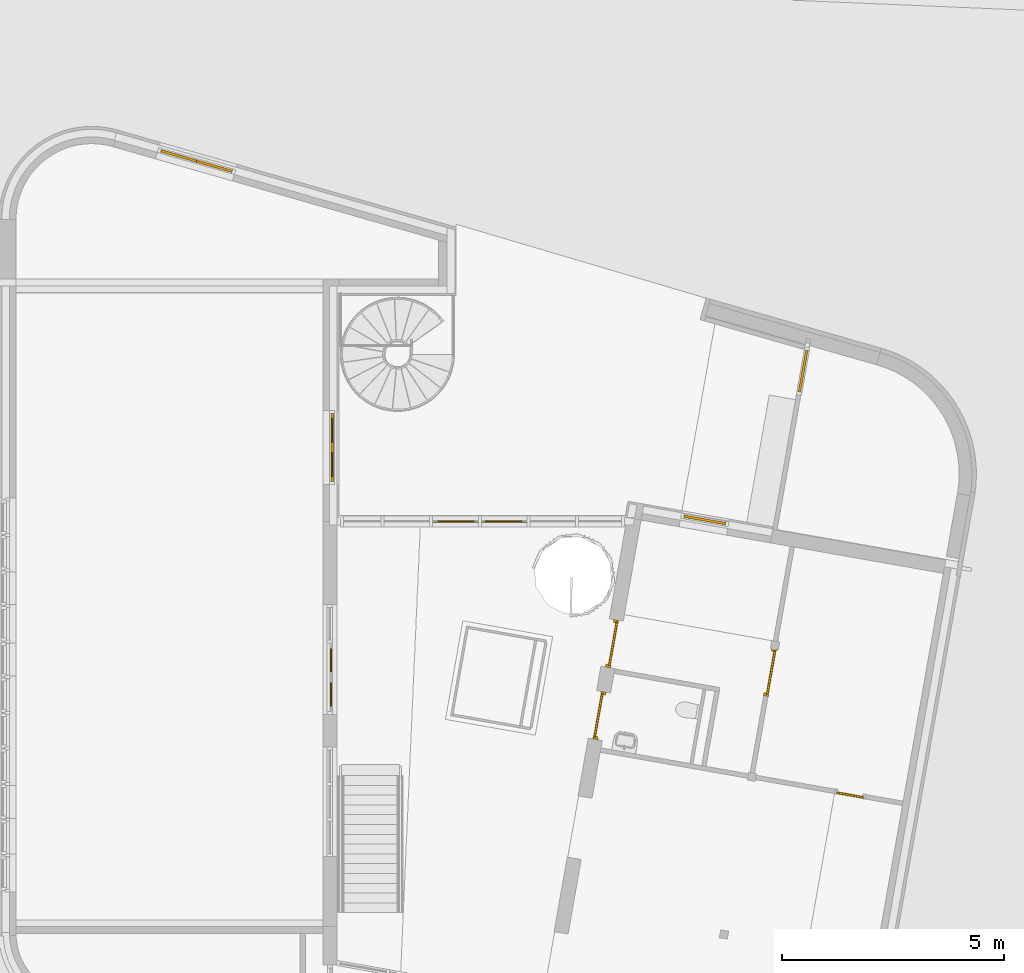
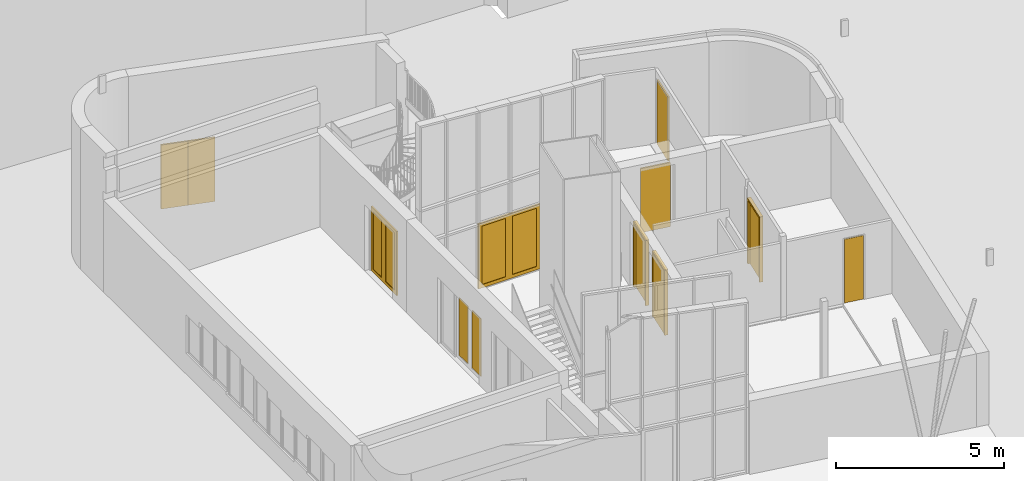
# One storey, part 17 of 21: 13 doors, 6 windows, 5 elements without a shape of their own.
"""IFC2X3 building model written with IfcOpenShell, lengths in millimetres."""

from ifc_helpers import new_model, entity, si_unit, converted_unit, derived_unit, direction, frame, frame_2d, origin, origin_2d_with_axis, place, context, subcontext, project, spatial, polyline, rectangle, outline, extrude, faceted_brep, source, transform, mapped, material, material_list, type_object, type_shapes, element, aggregate, save


model = new_model("IFC2X3")

# Units and contexts
model_context = context("Model", 3, precision=0.01, world=origin(), true_north=direction((6.12303176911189e-17, 1.0)))
body_context = subcontext(model_context, "Body", "Model", "MODEL_VIEW")
ifc_project = project(units=[si_unit("LENGTHUNIT", "METRE", prefix="MILLI"), si_unit("AREAUNIT", "SQUARE_METRE"), si_unit("VOLUMEUNIT", "CUBIC_METRE"), converted_unit("PLANEANGLEUNIT", "DEGREE", entity("IfcRatioMeasure", 0.0174532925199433), si_unit("PLANEANGLEUNIT", "RADIAN"), dimensions=[0, 0, 0, 0, 0, 0, 0]), si_unit("MASSUNIT", "GRAM", prefix="KILO"), derived_unit("MASSDENSITYUNIT", [(si_unit("MASSUNIT", "GRAM", prefix="KILO"), 1), (si_unit("LENGTHUNIT", "METRE"), -3)]), derived_unit("MOMENTOFINERTIAUNIT", [(si_unit("LENGTHUNIT", "METRE"), 4)]), si_unit("TIMEUNIT", "SECOND"), si_unit("FREQUENCYUNIT", "HERTZ"), si_unit("THERMODYNAMICTEMPERATUREUNIT", "DEGREE_CELSIUS"), derived_unit("THERMALTRANSMITTANCEUNIT", [(si_unit("MASSUNIT", "GRAM", prefix="KILO"), 1), (si_unit("THERMODYNAMICTEMPERATUREUNIT", "KELVIN"), -1), (si_unit("TIMEUNIT", "SECOND"), -3)]), derived_unit("VOLUMETRICFLOWRATEUNIT", [(si_unit("LENGTHUNIT", "METRE"), 3), (si_unit("TIMEUNIT", "SECOND"), -1)]), si_unit("ELECTRICCURRENTUNIT", "AMPERE"), si_unit("ELECTRICVOLTAGEUNIT", "VOLT"), si_unit("POWERUNIT", "WATT"), si_unit("FORCEUNIT", "NEWTON", prefix="KILO"), si_unit("ILLUMINANCEUNIT", "LUX"), si_unit("LUMINOUSFLUXUNIT", "LUMEN"), si_unit("LUMINOUSINTENSITYUNIT", "CANDELA"), derived_unit("USERDEFINED", [(si_unit("MASSUNIT", "GRAM", prefix="KILO"), -1), (si_unit("LENGTHUNIT", "METRE"), -2), (si_unit("TIMEUNIT", "SECOND"), 3), (si_unit("LUMINOUSFLUXUNIT", "LUMEN"), 1)]), derived_unit("LINEARVELOCITYUNIT", [(si_unit("LENGTHUNIT", "METRE"), 1), (si_unit("TIMEUNIT", "SECOND"), -1)]), si_unit("PRESSUREUNIT", "PASCAL"), derived_unit("USERDEFINED", [(si_unit("LENGTHUNIT", "METRE"), -2), (si_unit("MASSUNIT", "GRAM", prefix="KILO"), 1), (si_unit("TIMEUNIT", "SECOND"), -2)]), derived_unit("LINEARFORCEUNIT", [(si_unit("MASSUNIT", "GRAM", prefix="KILO"), 1), (si_unit("LENGTHUNIT", "METRE"), 1), (si_unit("TIMEUNIT", "SECOND"), -2), (si_unit("LENGTHUNIT", "METRE"), -1)]), derived_unit("PLANARFORCEUNIT", [(si_unit("MASSUNIT", "GRAM", prefix="KILO"), 1), (si_unit("LENGTHUNIT", "METRE"), 1), (si_unit("TIMEUNIT", "SECOND"), -2), (si_unit("LENGTHUNIT", "METRE"), -2)])], contexts=[model_context])

# Site, building, storey
site_placement = place(None, origin())
site = spatial("IfcSite", under=ifc_project, at=site_placement, Name="<Kadaster Gemeente>;<Kadaster nummer>;<Kadaster sectie>", CompositionType="ELEMENT")
building_placement = place(site_placement, origin())
building = spatial("IfcBuilding", under=site, at=building_placement, Name="JRCZ Middelburg", CompositionType="ELEMENT")
storey_placement = place(building_placement, origin())
storey = spatial("IfcBuildingStorey", under=building, at=storey_placement, Name="00 begane grond", CompositionType="ELEMENT", Elevation=0.0)

# Curtain wall, door
curtain_wall_type_1 = type_object("IfcCurtainWallType", Name="Curtain Wall:NLRS_31_CW_Ontwerpkozijn 067x114", PredefinedType="NOTDEFINED")
curtain_wall_1_placement = place(storey_placement, origin())
curtain_wall_1 = element("IfcCurtainWall", 1, at=curtain_wall_1_placement, inside=storey, type_object=curtain_wall_type_1, Name="Curtain Wall:NLRS_31_CW_Ontwerpkozijn 067x114", ObjectType="Curtain Wall:NLRS_31_CW_Ontwerpkozijn 067x114")
ifc_material_1 = material(Name="RBM_a_kozijn")
ifc_material_list_1 = material_list([ifc_material_1, ifc_material_1, ifc_material_1, ifc_material_1])
ifc_material_list_2 = material_list([ifc_material_1, ifc_material_1])
door_style_1 = type_object("IfcDoorStyle", Name="31_DO_stolpdeur_1:0std", ConstructionType="NOTDEFINED", OperationType="NOTDEFINED", ParameterTakesPrecedence=False, Sizeable=False, material=ifc_material_list_2)
shared_shape_1 = source(origin(), body_context, "Body", "SweptSolid", [
    extrude(outline(polyline([(-383.249999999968, -1166.5), (383.249999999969, -1166.5), (383.249999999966, 1166.5), (-383.249999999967, 1166.5), (-383.249999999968, -1166.5)]), holes=[polyline([(-263.249999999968, -1046.5), (-263.249999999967, 1046.49999999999), (263.250000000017, 1046.49999999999), (263.250000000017, -1046.5), (-263.249999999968, -1046.5)])]), frame((383.249999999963, 57.0, 1166.5), z_axis=(0.0, 1.0, 0.0), x_axis=(1.0, 0.0, 0.0)), (0.0, 0.0, 1.0), 27.0),
    extrude(outline(polyline([(-383.249999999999, -1166.5), (383.249999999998, -1166.5), (383.249999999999, 1166.5), (-383.249999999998, 1166.5), (-383.249999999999, -1166.5)]), holes=[polyline([(-263.249999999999, -1046.49999999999), (-263.249999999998, 1046.49999999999), (263.249999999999, 1046.5), (263.249999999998, -1046.49999999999), (-263.249999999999, -1046.49999999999)])]), frame((-383.249999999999, 57.0, 1166.5), z_axis=(0.0, 1.0, 0.0), x_axis=(1.0, 0.0, 0.0)), (0.0, 0.0, 1.0), 27.0),
    extrude(outline(polyline([(-383.249999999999, -1166.5), (383.249999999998, -1166.5), (383.249999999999, 1166.5), (-383.249999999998, 1166.5), (-383.249999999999, -1166.5)]), holes=[polyline([(-263.249999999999, -1046.49999999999), (-263.249999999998, 1046.49999999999), (263.249999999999, 1046.49999999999), (263.249999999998, -1046.49999999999), (-263.249999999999, -1046.49999999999)])]), frame((-383.249999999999, 30.0, 1166.5), z_axis=(0.0, 1.0, 0.0), x_axis=(1.0, 0.0, 0.0)), (0.0, 0.0, 1.0), 27.0000000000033),
    extrude(outline(polyline([(-383.249999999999, -1166.5), (383.249999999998, -1166.5), (383.249999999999, 1166.5), (-383.249999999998, 1166.5), (-383.249999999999, -1166.5)]), holes=[polyline([(-263.249999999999, -1046.49999999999), (-263.249999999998, 1046.49999999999), (263.249999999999, 1046.49999999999), (263.249999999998, -1046.49999999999), (-263.249999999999, -1046.49999999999)])]), frame((383.249999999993, 30.0, 1166.5), z_axis=(0.0, 1.0, 0.0), x_axis=(1.0, 0.0, 0.0)), (0.0, 0.0, 1.0), 26.9999999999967),
])
type_shapes(door_style_1, [shared_shape_1])
door_1_placement = place(curtain_wall_1_placement, frame((17200.0, 20763.5106983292, 0.0), z_axis=(0.0, 0.0, 1.0), x_axis=(0.0, -1.0, 0.0)))
door_1 = element("IfcDoor", 2, at=door_1_placement, type_object=door_style_1, material=ifc_material_list_1, Name="31_DO_stolpdeur_1:0std", ObjectType="31_DO_stolpdeur_1:0std", OverallHeight=2333.00000000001, OverallWidth=1533.0, context=body_context, shape_type="MappedRepresentation", body=[
    mapped(shared_shape_1, transform((0.0, 0.0, 0.0), scale=1.0)),
])
aggregate(curtain_wall_1, [door_1])

# Windows
ifc_material_2 = material(Name="o1_glas")
window_style_1 = type_object("IfcWindowStyle", Name="WI_subvak:glas 2", ConstructionType="NOTDEFINED", OperationType="NOTDEFINED", ParameterTakesPrecedence=False, Sizeable=False, material=ifc_material_2)
shared_shape_2 = source(origin(), body_context, "Body", "SweptSolid", [
    extrude(rectangle(XDim=24.0000000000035, YDim=526.500000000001, at=origin_2d_with_axis()), frame((0.0, 0.0, 0.0), z_axis=(0.0, 0.0, 1.0), x_axis=(0.0, -1.0, 0.0)), (0.0, 0.0, 1.0), 2092.99999999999),
])
type_shapes(window_style_1, [shared_shape_2])
for number, where, z_axis, x_axis, name in (
    (3, (17257.0, 20380.2606983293, 120.0), (0.0, 0.0, 1.0), (0.0, -1.0, 0.0), "WI_subvak:glas 2"),
    (4, (17257.0, 21146.7606983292, 120.0), (0.0, 0.0, 1.0), (0.0, -1.0, 0.0), "WI_subvak:glas 2"),
):
    element("IfcWindow", number, at=place(storey_placement, frame(where, z_axis=z_axis, x_axis=x_axis)), inside=storey, type_object=window_style_1, material=ifc_material_2, Name=name, ObjectType="WI_subvak:glas 2", OverallHeight=2172.99999999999, OverallWidth=526.500000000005, context=body_context, shape_type="MappedRepresentation", body=[
        mapped(shared_shape_2, transform((0.0, 0.0, 0.0), scale=1.0)),
    ])
window_style_2 = type_object("IfcWindowStyle", Name="WI_subvak:glas 2", ConstructionType="NOTDEFINED", OperationType="NOTDEFINED", ParameterTakesPrecedence=False, Sizeable=False, material=ifc_material_2)
shared_shape_3 = source(origin(), body_context, "Body", "SweptSolid", [
    extrude(rectangle(XDim=526.500000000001, YDim=24.0000000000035, at=origin_2d_with_axis()), origin(), (0.0, 0.0, 1.0), 2092.99999999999),
])
type_shapes(window_style_2, [shared_shape_3])
for number, where, z_axis, x_axis, name in (
    (5, (17230.0, 15983.25, 120.0), (0.0, 0.0, 1.0), (0.0, 1.0, 0.0), "WI_subvak:glas 2"),
    (6, (17230.0, 15216.7499996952, 120.0), (0.0, 0.0, 1.0), (0.0, 1.0, 0.0), "WI_subvak:glas 2"),
):
    element("IfcWindow", number, at=place(storey_placement, frame(where, z_axis=z_axis, x_axis=x_axis)), inside=storey, type_object=window_style_2, material=ifc_material_2, Name=name, ObjectType="WI_subvak:glas 2", OverallHeight=2172.99999999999, OverallWidth=526.500000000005, context=body_context, shape_type="MappedRepresentation", body=[
        mapped(shared_shape_3, transform((0.0, 0.0, 0.0), scale=1.0)),
    ])

# Doors
ifc_material_3 = material(Name="<Unnamed>")
ifc_material_list_3 = material_list([ifc_material_3, ifc_material_3, ifc_material_3])
ifc_material_list_4 = material_list([ifc_material_3, ifc_material_3])
door_style_2 = type_object("IfcDoorStyle", Name="NLRS_32_DO_UN_samenstelling binnenkozijn hout-SH_generiek_ISR:enkele deur_gen", ConstructionType="USERDEFINED", OperationType="NOTDEFINED", ParameterTakesPrecedence=False, Sizeable=False, material=ifc_material_list_4)
shared_shape_4 = source(origin(), body_context, "Body", "Brep", [
    faceted_brep([(492.0, 0.0, 0.0), (492.0, 54.0, 0.0), (475.0, 54.0, 0.0), (475.0, 114.0, 0.0), (542.0, 114.0, 0.0), (542.0, 0.0, 0.0), (492.0, 0.0, 2327.0), (492.0, 54.0, 2327.0), (492.0, 54.0, 2310.0), (475.0, 54.0, 2310.0), (475.0, 114.0, 2310.0), (542.0, 114.0, 2310.0), (542.0, 54.0, 2310.0), (542.0, 54.0, 2327.0), (542.0, 0.0, 2327.0)], [[[0, 1, 2, 3, 4, 5]], [[6, 7, 8, 1, 0]], [[2, 1, 8, 9]], [[3, 2, 9, 10]], [[4, 3, 10, 11]], [[5, 4, 11, 12, 13, 14]], [[14, 6, 0, 5]], [[6, 14, 13, 7]], [[8, 12, 11, 10, 9]], [[12, 8, 7, 13]]]),
    faceted_brep([(-542.0, 0.0, 2327.0), (-542.0, 0.0, 2377.0), (-542.0, 114.0, 2377.0), (-542.0, 114.0, 2310.0), (-542.0, 54.0, 2310.0), (-542.0, 54.0, 2327.0), (542.0, 0.0, 2327.0), (542.0, 54.0, 2327.0), (542.0, 54.0, 2310.0), (542.0, 114.0, 2310.0), (542.0, 114.0, 2377.0), (542.0, 0.0, 2377.0)], [[[0, 1, 2, 3, 4, 5]], [[6, 7, 8, 9, 10, 11]], [[5, 7, 6, 0]], [[4, 8, 7, 5]], [[3, 9, 8, 4]], [[2, 10, 9, 3]], [[1, 11, 10, 2]], [[0, 6, 11, 1]]]),
    faceted_brep([(-492.0, 0.0, 0.0), (-542.0, 0.0, 0.0), (-542.0, 114.0, 0.0), (-475.0, 114.0, 0.0), (-475.0, 54.0, 0.0), (-492.0, 54.0, 0.0), (-492.0, 0.0, 2327.0), (-492.0, 54.0, 2310.0), (-492.0, 54.0, 2327.0), (-475.0, 54.0, 2310.0), (-475.0, 114.0, 2310.0), (-542.0, 114.0, 2310.0), (-542.0, 0.0, 2327.0), (-542.0, 54.0, 2327.0), (-542.0, 54.0, 2310.0)], [[[0, 1, 2, 3, 4, 5]], [[6, 0, 5, 7, 8]], [[4, 9, 7, 5]], [[3, 10, 9, 4]], [[2, 11, 10, 3]], [[1, 12, 13, 14, 11, 2]], [[12, 1, 0, 6]], [[6, 8, 13, 12]], [[7, 9, 10, 11, 14]], [[14, 13, 8, 7]]]),
])
type_shapes(door_style_2, [shared_shape_4])
door_2_placement = place(storey_placement, frame((23605.4826461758, 16346.1458893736, 0.0), z_axis=(0.0, 0.0, 1.0), x_axis=(0.17364817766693, 0.984807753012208, 0.0)))
element("IfcDoor", 7, at=door_2_placement, inside=storey, type_object=door_style_2, material=ifc_material_list_3, Name="NLRS_32_DO_UN_samenstelling binnenkozijn hout-SH_generiek_ISR:enkele deur_gen", ObjectType="NLRS_32_DO_UN_samenstelling binnenkozijn hout-SH_generiek_ISR:enkele deur_gen", OverallHeight=2377.00000000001, OverallWidth=1084.0, context=body_context, shape_type="MappedRepresentation", body=[
    mapped(shared_shape_4, transform((0.0, 0.0, 0.0), scale=1.0)),
])
ifc_material_list_5 = material_list([ifc_material_3, ifc_material_3, ifc_material_3])
door_3_placement = place(storey_placement, frame((23208.0842545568, 14748.8874509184, 0.0), z_axis=(0.0, 0.0, 1.0), x_axis=(-0.17364817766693, -0.984807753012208, 0.0)))
element("IfcDoor", 8, at=door_3_placement, inside=storey, type_object=door_style_2, material=ifc_material_list_5, Name="NLRS_32_DO_UN_samenstelling binnenkozijn hout-SH_generiek_ISR:enkele deur_gen", ObjectType="NLRS_32_DO_UN_samenstelling binnenkozijn hout-SH_generiek_ISR:enkele deur_gen", OverallHeight=2377.00000000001, OverallWidth=1084.0, context=body_context, shape_type="MappedRepresentation", body=[
    mapped(shared_shape_4, transform((0.0, 0.0, 0.0), scale=1.0)),
])
ifc_material_list_6 = material_list([ifc_material_3, ifc_material_3, ifc_material_3])
door_4_placement = place(storey_placement, frame((27156.9480096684, 15702.6644720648, 0.0), z_axis=(0.0, 0.0, 1.0), x_axis=(0.173648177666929, 0.984807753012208, 0.0)))
element("IfcDoor", 9, at=door_4_placement, inside=storey, type_object=door_style_2, material=ifc_material_list_6, Name="NLRS_32_DO_UN_samenstelling binnenkozijn hout-SH_generiek_ISR:enkele deur_gen", ObjectType="NLRS_32_DO_UN_samenstelling binnenkozijn hout-SH_generiek_ISR:enkele deur_gen", OverallHeight=2377.00000000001, OverallWidth=1084.0, context=body_context, shape_type="MappedRepresentation", body=[
    mapped(shared_shape_4, transform((0.0, 0.0, 0.0), scale=1.0)),
])
ifc_material_list_7 = material_list([ifc_material_3, ifc_material_3])
door_style_3 = type_object("IfcDoorStyle", Name="NLRS_32_DO_ISR_onderdeel deur-SH_generiek_ISR:dichte deur_gen", ConstructionType="USERDEFINED", OperationType="SINGLE_SWING_RIGHT", ParameterTakesPrecedence=False, Sizeable=False, material=ifc_material_list_7)
shared_shape_5 = source(origin(), body_context, "Body", "SweptSolid", [
    extrude(rectangle(XDim=979.999999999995, YDim=40.0, at=origin_2d_with_axis()), frame((0.0, 20.0, 0.0), z_axis=(0.0, 0.0, 1.0), x_axis=(-1.0, 0.0, 0.0)), (0.0, 0.0, 1.0), 2315.0),
])
type_shapes(door_style_3, [shared_shape_5])
for number, where, z_axis, x_axis in (
    (10, (23591.6953376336, 16348.5769638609, 10.0), (0.0, 0.0, 1.0), (0.17364817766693, 0.984807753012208, 0.0)),
    (11, (23221.871563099, 14746.456376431, 10.0), (0.0, 0.0, 1.0), (-0.17364817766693, -0.984807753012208, 0.0)),
    (12, (27143.1607011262, 15705.0955465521, 10.0), (0.0, 0.0, 1.0), (0.173648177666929, 0.984807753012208, 0.0)),
):
    element("IfcDoor", number, at=place(storey_placement, frame(where, z_axis=z_axis, x_axis=x_axis)), inside=storey, type_object=door_style_3, material=ifc_material_3, Name="NLRS_32_DO_ISR_onderdeel deur-SH_generiek_ISR:dichte deur_gen", ObjectType="NLRS_32_DO_ISR_onderdeel deur-SH_generiek_ISR:dichte deur_gen", OverallHeight=2315.0, OverallWidth=980.000000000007, context=body_context, shape_type="MappedRepresentation", body=[
        mapped(shared_shape_5, transform((0.0, 0.0, 0.0), scale=1.0)),
    ])

# Curtain wall, doors
curtain_wall_2_placement = place(storey_placement, origin())
curtain_wall_2 = element("IfcCurtainWall", 13, at=curtain_wall_2_placement, inside=storey, type_object=curtain_wall_type_1, Name="Curtain Wall:NLRS_31_CW_Ontwerpkozijn 067x114", ObjectType="Curtain Wall:NLRS_31_CW_Ontwerpkozijn 067x114")
ifc_material_4 = material(Name="RBM_a_deur_paneel")
ifc_material_list_8 = material_list([ifc_material_4, ifc_material_4])
ifc_material_list_9 = material_list([ifc_material_4, ifc_material_4])
door_style_4 = type_object("IfcDoorStyle", Name="31_DO_deur_0:deur", ConstructionType="NOTDEFINED", OperationType="NOTDEFINED", ParameterTakesPrecedence=False, Sizeable=False, material=ifc_material_list_9)
shared_shape_6 = source(origin(), body_context, "Body", "SweptSolid", [
    extrude(rectangle(XDim=27.0, YDim=833.000000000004, at=frame_2d((8.88178419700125e-15, 0.0), x_axis=(1.0, 0.0))), frame((0.0, 70.4999999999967, 0.0), z_axis=(0.0, 0.0, 1.0), x_axis=(0.0, 1.0, 0.0)), (0.0, 0.0, 1.0), 2333.00000000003),
    extrude(rectangle(XDim=26.9999999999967, YDim=833.000000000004, at=origin_2d_with_axis()), frame((0.0, 43.4999999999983, 0.0), z_axis=(0.0, 0.0, 1.0), x_axis=(0.0, 1.0, 0.0)), (0.0, 0.0, 1.0), 2333.00000000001),
])
type_shapes(door_style_4, [shared_shape_6])
door_5_placement = place(curtain_wall_2_placement, frame((13791.5708589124, 27264.9308363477, 0.0), z_axis=(0.0, 0.0, 1.0), x_axis=(0.961261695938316, -0.27563735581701, 0.0)))
door_5 = element("IfcDoor", 14, at=door_5_placement, type_object=door_style_4, material=ifc_material_list_8, Name="31_DO_deur_0:deur", ObjectType="31_DO_deur_0:deur", OverallHeight=2333.00000000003, OverallWidth=833.000000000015, context=body_context, shape_type="MappedRepresentation", body=[
    mapped(shared_shape_6, transform((0.0, 0.0, 0.0), scale=1.0)),
])
ifc_material_list_10 = material_list([ifc_material_4, ifc_material_4])
ifc_material_list_11 = material_list([ifc_material_4, ifc_material_4])
door_style_5 = type_object("IfcDoorStyle", Name="31_DO_deur_0:deur", ConstructionType="NOTDEFINED", OperationType="NOTDEFINED", ParameterTakesPrecedence=False, Sizeable=False, material=ifc_material_list_11)
shared_shape_7 = source(origin(), body_context, "Body", "SweptSolid", [
    extrude(rectangle(XDim=27.0, YDim=833.00000000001, at=frame_2d((8.88178419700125e-15, 0.0), x_axis=(1.0, 0.0))), frame((0.0, 70.4999999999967, 0.0), z_axis=(0.0, 0.0, 1.0), x_axis=(0.0, 1.0, 0.0)), (0.0, 0.0, 1.0), 2333.00000000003),
    extrude(rectangle(XDim=26.9999999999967, YDim=833.00000000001, at=origin_2d_with_axis()), frame((0.0, 43.4999999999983, 0.0), z_axis=(0.0, 0.0, 1.0), x_axis=(0.0, 1.0, 0.0)), (0.0, 0.0, 1.0), 2333.00000000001),
])
type_shapes(door_style_5, [shared_shape_7])
door_6_placement = place(curtain_wall_2_placement, frame((14592.301851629, 27035.3249189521, 0.0), z_axis=(0.0, 0.0, 1.0), x_axis=(0.961261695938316, -0.27563735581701, 0.0)))
door_6 = element("IfcDoor", 15, at=door_6_placement, type_object=door_style_5, material=ifc_material_list_10, Name="31_DO_deur_0:deur", ObjectType="31_DO_deur_0:deur", OverallHeight=2333.00000000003, OverallWidth=833.000000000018, context=body_context, shape_type="MappedRepresentation", body=[
    mapped(shared_shape_7, transform((0.0, 0.0, 0.0), scale=1.0)),
])
aggregate(curtain_wall_2, [door_5, door_6])

# Curtain wall, door
curtain_wall_type_2 = type_object("IfcCurtainWallType", Name="Curtain Wall:Vliesgevel C", PredefinedType="NOTDEFINED")
curtain_wall_3_placement = place(storey_placement, origin())
curtain_wall_3 = element("IfcCurtainWall", 16, at=curtain_wall_3_placement, inside=storey, type_object=curtain_wall_type_2, Name="Curtain Wall:Vliesgevel C", ObjectType="Curtain Wall:Vliesgevel C")
ifc_material_5 = material(Name="RBM_a_kozijn licht")
ifc_material_list_12 = material_list([ifc_material_5, ifc_material_5, ifc_material_5, ifc_material_5])
ifc_material_list_13 = material_list([ifc_material_5, ifc_material_5])
door_style_6 = type_object("IfcDoorStyle", Name="31_DO_stolpdeur_1:0std", ConstructionType="NOTDEFINED", OperationType="NOTDEFINED", ParameterTakesPrecedence=False, Sizeable=False, material=ifc_material_list_13)
shared_shape_8 = source(origin(), body_context, "Body", "SweptSolid", [
    extrude(outline(polyline([(-530.613549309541, -1183.25), (530.613549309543, -1183.25), (530.613549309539, 1183.25), (-530.613549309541, 1183.25), (-530.613549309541, -1183.25)]), holes=[polyline([(-410.613549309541, -1063.25), (-410.61354930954, 1063.24999999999), (410.613549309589, 1063.24999999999), (410.61354930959, -1063.25), (-410.613549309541, -1063.25)])]), frame((530.613549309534, 57.0, 1183.25), z_axis=(0.0, 1.0, 0.0), x_axis=(1.0, 0.0, 0.0)), (0.0, 0.0, 1.0), 27.0),
    extrude(outline(polyline([(-530.613549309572, -1183.25), (530.613549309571, -1183.25), (530.613549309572, 1183.25), (-530.613549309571, 1183.25), (-530.613549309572, -1183.25)]), holes=[polyline([(-410.613549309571, -1063.24999999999), (-410.613549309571, 1063.24999999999), (410.613549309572, 1063.25), (410.613549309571, -1063.24999999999), (-410.613549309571, -1063.24999999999)])]), frame((-530.61354930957, 57.0, 1183.25), z_axis=(0.0, 1.0, 0.0), x_axis=(1.0, 0.0, 0.0)), (0.0, 0.0, 1.0), 27.0),
    extrude(outline(polyline([(-530.613549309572, -1183.25), (530.613549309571, -1183.25), (530.613549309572, 1183.25), (-530.613549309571, 1183.25), (-530.613549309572, -1183.25)]), holes=[polyline([(-410.613549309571, -1063.24999999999), (-410.613549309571, 1063.24999999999), (410.613549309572, 1063.24999999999), (410.613549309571, -1063.24999999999), (-410.613549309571, -1063.24999999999)])]), frame((-530.61354930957, 30.0, 1183.25), z_axis=(0.0, 1.0, 0.0), x_axis=(1.0, 0.0, 0.0)), (0.0, 0.0, 1.0), 27.0000000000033),
    extrude(outline(polyline([(-530.613549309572, -1183.25), (530.613549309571, -1183.25), (530.613549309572, 1183.25), (-530.613549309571, 1183.25), (-530.613549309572, -1183.25)]), holes=[polyline([(-410.613549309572, -1063.24999999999), (-410.613549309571, 1063.24999999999), (410.613549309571, 1063.24999999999), (410.613549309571, -1063.24999999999), (-410.613549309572, -1063.24999999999)])]), frame((530.613549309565, 30.0, 1183.25), z_axis=(0.0, 1.0, 0.0), x_axis=(1.0, 0.0, 0.0)), (0.0, 0.0, 1.0), 26.9999999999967),
])
type_shapes(door_style_6, [shared_shape_8])
door_7_placement = place(curtain_wall_3_placement, frame((20575.883832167, 19046.62338787, 0.0)))
door_7 = element("IfcDoor", 17, at=door_7_placement, type_object=door_style_6, material=ifc_material_list_12, Name="31_DO_stolpdeur_1:0std", ObjectType="31_DO_stolpdeur_1:0std", OverallHeight=2366.50000000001, OverallWidth=2122.45419723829, context=body_context, shape_type="MappedRepresentation", body=[
    mapped(shared_shape_8, transform((0.0, 0.0, 0.0), scale=1.0)),
])
aggregate(curtain_wall_3, [door_7])

# Windows
window_style_3 = type_object("IfcWindowStyle", Name="WI_subvak:glas 2", ConstructionType="NOTDEFINED", OperationType="NOTDEFINED", ParameterTakesPrecedence=False, Sizeable=False, material=ifc_material_2)
shared_shape_9 = source(origin(), body_context, "Body", "SweptSolid", [
    extrude(rectangle(XDim=24.0000000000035, YDim=821.227098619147, at=frame_2d((0.0, -2.8421709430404e-14), x_axis=(1.0, 0.0))), frame((0.0, 0.0, 0.0), z_axis=(0.0, 0.0, 1.0), x_axis=(0.0, -1.0, 0.0)), (0.0, 0.0, 1.0), 2126.49999999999),
])
type_shapes(window_style_3, [shared_shape_9])
for number, where, name in (
    (18, (21106.4973814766, 19103.62338787, 120.0), "WI_subvak:glas 2"),
    (19, (20045.2702828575, 19103.62338787, 120.0), "WI_subvak:glas 2"),
):
    element("IfcWindow", number, at=place(storey_placement, frame(where)), inside=storey, type_object=window_style_3, material=ifc_material_2, Name=name, ObjectType="WI_subvak:glas 2", OverallHeight=2206.49999999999, OverallWidth=821.227098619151, context=body_context, shape_type="MappedRepresentation", body=[
        mapped(shared_shape_9, transform((0.0, 0.0, 0.0), scale=1.0)),
    ])

# Curtain wall, door
curtain_wall_4_placement = place(storey_placement, origin())
curtain_wall_4 = element("IfcCurtainWall", 20, at=curtain_wall_4_placement, inside=storey, type_object=curtain_wall_type_1, Name="Curtain Wall:NLRS_31_CW_Ontwerpkozijn 067x114", ObjectType="Curtain Wall:NLRS_31_CW_Ontwerpkozijn 067x114")
ifc_material_list_14 = material_list([ifc_material_4, ifc_material_4])
ifc_material_list_15 = material_list([ifc_material_4, ifc_material_4])
door_style_7 = type_object("IfcDoorStyle", Name="31_DO_deur_0:deur", ConstructionType="NOTDEFINED", OperationType="NOTDEFINED", ParameterTakesPrecedence=False, Sizeable=False, material=ifc_material_list_15)
shared_shape_10 = source(origin(), body_context, "Body", "SweptSolid", [
    extrude(rectangle(XDim=950.000000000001, YDim=27.0, at=origin_2d_with_axis()), frame((0.0, -70.4999999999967, 0.0), z_axis=(0.0, 0.0, 1.0), x_axis=(-1.0, 0.0, 0.0)), (0.0, 0.0, 1.0), 2333.00000000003),
    extrude(rectangle(XDim=950.000000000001, YDim=26.9999999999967, at=origin_2d_with_axis()), frame((0.0, -43.4999999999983, 0.0), z_axis=(0.0, 0.0, 1.0), x_axis=(-1.0, 0.0, 0.0)), (0.0, 0.0, 1.0), 2333.00000000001),
])
type_shapes(door_style_7, [shared_shape_10])
door_8_placement = place(curtain_wall_4_placement, frame((27900.2890041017, 22473.1441529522, 0.0), z_axis=(0.0, 0.0, 1.0), x_axis=(-0.17364817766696, -0.984807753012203, 0.0)))
door_8 = element("IfcDoor", 21, at=door_8_placement, type_object=door_style_7, material=ifc_material_list_14, Name="31_DO_deur_0:deur", ObjectType="31_DO_deur_0:deur", OverallHeight=2333.00000000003, OverallWidth=950.00000000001, context=body_context, shape_type="MappedRepresentation", body=[
    mapped(shared_shape_10, transform((0.0, 0.0, 0.0), scale=1.0)),
])
aggregate(curtain_wall_4, [door_8])

curtain_wall_5_placement = place(storey_placement, origin())
curtain_wall_5 = element("IfcCurtainWall", 22, at=curtain_wall_5_placement, inside=storey, type_object=curtain_wall_type_1, Name="Curtain Wall:NLRS_31_CW_Ontwerpkozijn 067x114", ObjectType="Curtain Wall:NLRS_31_CW_Ontwerpkozijn 067x114")
ifc_material_list_16 = material_list([ifc_material_4, ifc_material_4])
ifc_material_list_17 = material_list([ifc_material_4, ifc_material_4])
door_style_8 = type_object("IfcDoorStyle", Name="31_DO_deur_0:deur", ConstructionType="NOTDEFINED", OperationType="NOTDEFINED", ParameterTakesPrecedence=False, Sizeable=False, material=ifc_material_list_17)
shared_shape_11 = source(origin(), body_context, "Body", "SweptSolid", [
    extrude(rectangle(XDim=950.000000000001, YDim=27.0, at=origin_2d_with_axis()), frame((0.0, -70.4999999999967, 0.0), z_axis=(0.0, 0.0, 1.0), x_axis=(-1.0, 0.0, 0.0)), (0.0, 0.0, 1.0), 2333.00000000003),
    extrude(rectangle(XDim=950.000000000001, YDim=26.9999999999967, at=origin_2d_with_axis()), frame((0.0, -43.4999999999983, 0.0), z_axis=(0.0, 0.0, 1.0), x_axis=(-1.0, 0.0, 0.0)), (0.0, 0.0, 1.0), 2333.00000000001),
])
type_shapes(door_style_8, [shared_shape_11])
door_9_placement = place(curtain_wall_5_placement, frame((25623.6533749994, 19081.2465445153, 0.0), z_axis=(0.0, 0.0, 1.0), x_axis=(-0.984807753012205, 0.173648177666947, 0.0)))
door_9 = element("IfcDoor", 23, at=door_9_placement, type_object=door_style_8, material=ifc_material_list_16, Name="31_DO_deur_0:deur", ObjectType="31_DO_deur_0:deur", OverallHeight=2333.00000000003, OverallWidth=950.00000000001, context=body_context, shape_type="MappedRepresentation", body=[
    mapped(shared_shape_11, transform((0.0, 0.0, 0.0), scale=1.0)),
])
aggregate(curtain_wall_5, [door_9])

# Door
ifc_material_list_18 = material_list([ifc_material_3, ifc_material_3])
door_style_9 = type_object("IfcDoorStyle", Name="NLRS_32_DO_ISR_onderdeel deur-SH_generiek_ISR:dichte deur_gen", ConstructionType="USERDEFINED", OperationType="SINGLE_SWING_RIGHT", ParameterTakesPrecedence=False, Sizeable=False, material=ifc_material_list_18)
shared_shape_12 = source(origin(), body_context, "Body", "SweptSolid", [
    extrude(rectangle(XDim=40.0, YDim=599.999999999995, at=origin_2d_with_axis()), frame((0.0, -20.0, 0.0), z_axis=(0.0, 0.0, 1.0), x_axis=(0.0, 1.0, 0.0)), (0.0, 0.0, 1.0), 2315.0),
])
type_shapes(door_style_9, [shared_shape_12])
door_10_placement = place(storey_placement, frame((28897.3305485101, 12932.3631132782, 10.0), z_axis=(0.0, 0.0, 1.0), x_axis=(-0.984807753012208, 0.173648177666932, 0.0)))
element("IfcDoor", 24, at=door_10_placement, inside=storey, type_object=door_style_9, material=ifc_material_3, Name="NLRS_32_DO_ISR_onderdeel deur-SH_generiek_ISR:dichte deur_gen", ObjectType="NLRS_32_DO_ISR_onderdeel deur-SH_generiek_ISR:dichte deur_gen", OverallHeight=2315.0, OverallWidth=600.000000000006, context=body_context, shape_type="MappedRepresentation", body=[
    mapped(shared_shape_12, transform((0.0, 0.0, 0.0), scale=1.0)),
])

save(model, "model.ifc")
